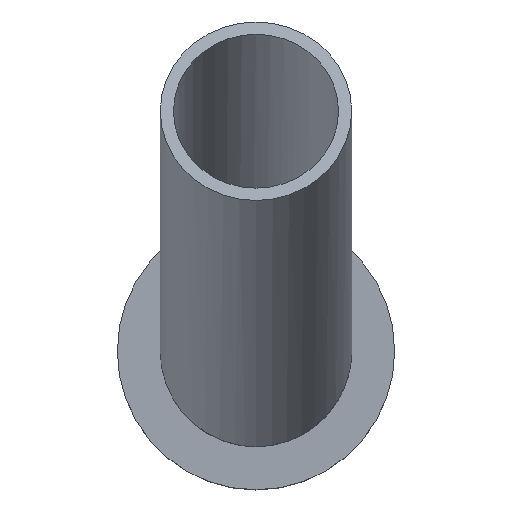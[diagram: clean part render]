
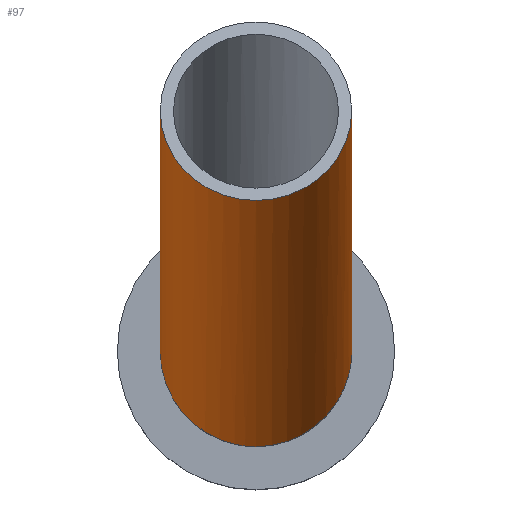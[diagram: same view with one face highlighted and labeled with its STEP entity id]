
A CAD part, top view. The second image highlights one B-rep face of the part: STEP entity #97.
In plain terms, the highlighted cylindrical face has radius 14.5 mm (diameter 29 mm), a full revolution.
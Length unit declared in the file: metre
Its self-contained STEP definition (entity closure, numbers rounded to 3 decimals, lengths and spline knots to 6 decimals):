
#13=ELLIPSE('',#123,0.014751,0.0145);
#27=ORIENTED_EDGE('',*,*,#38,.F.);
#28=ORIENTED_EDGE('',*,*,#39,.F.);
#38=EDGE_CURVE('',#46,#46,#13,.F.);
#39=EDGE_CURVE('',#47,#47,#53,.T.);
#46=VERTEX_POINT('',#180);
#47=VERTEX_POINT('',#183);
#53=CIRCLE('',#125,0.0145);
#65=EDGE_LOOP('',(#27));
#66=EDGE_LOOP('',(#28));
#81=FACE_BOUND('',#65,.T.);
#82=FACE_BOUND('',#66,.T.);
#90=CYLINDRICAL_SURFACE('',#124,0.0145);
#97=ADVANCED_FACE('',(#81,#82),#90,.T.);
#123=AXIS2_PLACEMENT_3D('',#179,#151,#152);
#124=AXIS2_PLACEMENT_3D('',#181,#153,#154);
#125=AXIS2_PLACEMENT_3D('',#182,#155,#156);
#151=DIRECTION('',(0.,0.184,0.983));
#152=DIRECTION('',(0.,-0.983,0.184));
#153=DIRECTION('',(0.,0.361,0.932));
#154=DIRECTION('',(0.,-0.932,0.361));
#155=DIRECTION('',(0.,0.361,0.932));
#156=DIRECTION('',(1.,0.,0.));
#179=CARTESIAN_POINT('',(0.,0.,0.03));
#180=CARTESIAN_POINT('',(0.,-0.0145,0.032712));
#181=CARTESIAN_POINT('',(0.,-0.002193,0.024343));
#182=CARTESIAN_POINT('',(0.,0.036145,0.123239));
#183=CARTESIAN_POINT('',(0.0145,0.036145,0.123239));
